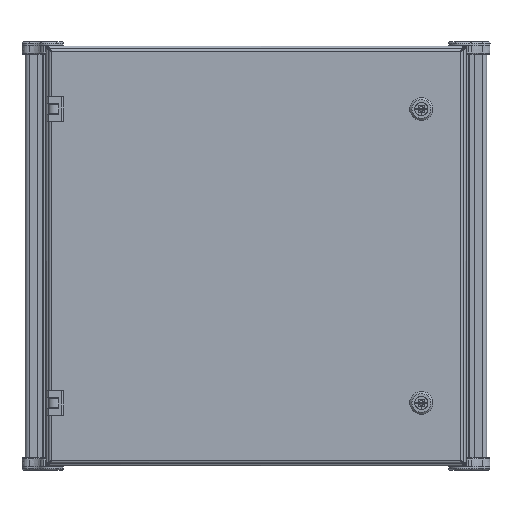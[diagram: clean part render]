
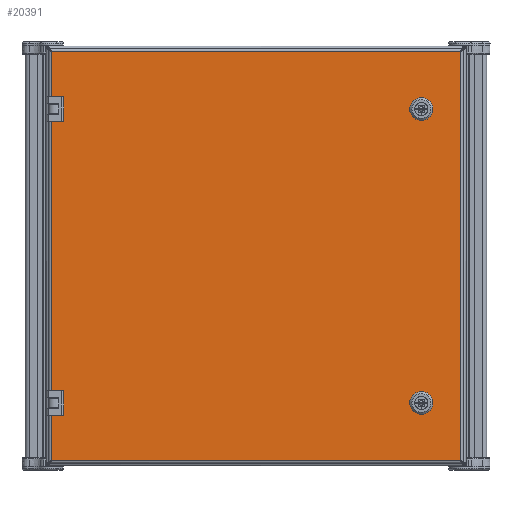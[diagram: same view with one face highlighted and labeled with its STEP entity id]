
A CAD part, front view. The second image highlights one B-rep face of the part: STEP entity #20391.
In plain terms, the highlighted planar face has unit normal (0, -1, 0).
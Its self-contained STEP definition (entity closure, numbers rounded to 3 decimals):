
#6241=ORIENTED_EDGE('',*,*,#10039,.F.);
#6242=ORIENTED_EDGE('',*,*,#10036,.F.);
#6243=ORIENTED_EDGE('',*,*,#10057,.F.);
#6244=ORIENTED_EDGE('',*,*,#10054,.F.);
#6245=ORIENTED_EDGE('',*,*,#10051,.F.);
#6246=ORIENTED_EDGE('',*,*,#10048,.F.);
#6247=ORIENTED_EDGE('',*,*,#10045,.F.);
#6248=ORIENTED_EDGE('',*,*,#10042,.F.);
#6249=ORIENTED_EDGE('',*,*,#10087,.F.);
#6250=ORIENTED_EDGE('',*,*,#10088,.F.);
#6251=ORIENTED_EDGE('',*,*,#10089,.F.);
#6252=ORIENTED_EDGE('',*,*,#10090,.F.);
#6253=ORIENTED_EDGE('',*,*,#10091,.F.);
#6254=ORIENTED_EDGE('',*,*,#10092,.F.);
#6255=ORIENTED_EDGE('',*,*,#10093,.F.);
#6256=ORIENTED_EDGE('',*,*,#10094,.F.);
#6257=ORIENTED_EDGE('',*,*,#10095,.T.);
#6258=ORIENTED_EDGE('',*,*,#10067,.T.);
#6259=ORIENTED_EDGE('',*,*,#10059,.T.);
#6260=ORIENTED_EDGE('',*,*,#10069,.T.);
#6261=ORIENTED_EDGE('',*,*,#10020,.T.);
#6262=ORIENTED_EDGE('',*,*,#10096,.T.);
#6263=ORIENTED_EDGE('',*,*,#10097,.T.);
#6264=ORIENTED_EDGE('',*,*,#10098,.T.);
#6265=ORIENTED_EDGE('',*,*,#10099,.T.);
#6266=ORIENTED_EDGE('',*,*,#10100,.T.);
#6267=ORIENTED_EDGE('',*,*,#10101,.F.);
#6268=ORIENTED_EDGE('',*,*,#10102,.T.);
#10020=EDGE_CURVE('',#12239,#12238,#13893,.T.);
#10036=EDGE_CURVE('',#12250,#12251,#13906,.T.);
#10039=EDGE_CURVE('',#12251,#12253,#13909,.T.);
#10042=EDGE_CURVE('',#12253,#12255,#13912,.T.);
#10045=EDGE_CURVE('',#12255,#12257,#13915,.T.);
#10048=EDGE_CURVE('',#12257,#12259,#13918,.T.);
#10051=EDGE_CURVE('',#12259,#12261,#13921,.T.);
#10054=EDGE_CURVE('',#12261,#12263,#13924,.T.);
#10057=EDGE_CURVE('',#12263,#12250,#13927,.T.);
#10059=EDGE_CURVE('',#12266,#12265,#13929,.T.);
#10067=EDGE_CURVE('',#12273,#12266,#13936,.T.);
#10069=EDGE_CURVE('',#12265,#12239,#13937,.T.);
#10087=EDGE_CURVE('',#12289,#12290,#13955,.T.);
#10088=EDGE_CURVE('',#12291,#12289,#13956,.T.);
#10089=EDGE_CURVE('',#12292,#12291,#13957,.T.);
#10090=EDGE_CURVE('',#12293,#12292,#13958,.T.);
#10091=EDGE_CURVE('',#12294,#12293,#13959,.T.);
#10092=EDGE_CURVE('',#12295,#12294,#13960,.T.);
#10093=EDGE_CURVE('',#12296,#12295,#13961,.T.);
#10094=EDGE_CURVE('',#12290,#12296,#13962,.T.);
#10095=EDGE_CURVE('',#12297,#12273,#13963,.T.);
#10096=EDGE_CURVE('',#12238,#12298,#13964,.T.);
#10097=EDGE_CURVE('',#12298,#12299,#13965,.T.);
#10098=EDGE_CURVE('',#12299,#12300,#13966,.T.);
#10099=EDGE_CURVE('',#12300,#12301,#13967,.T.);
#10100=EDGE_CURVE('',#12301,#12302,#13968,.T.);
#10101=EDGE_CURVE('',#12303,#12302,#13969,.T.);
#10102=EDGE_CURVE('',#12303,#12297,#13970,.T.);
#12238=VERTEX_POINT('',#35476);
#12239=VERTEX_POINT('',#35478);
#12250=VERTEX_POINT('',#35509);
#12251=VERTEX_POINT('',#35511);
#12253=VERTEX_POINT('',#35517);
#12255=VERTEX_POINT('',#35523);
#12257=VERTEX_POINT('',#35529);
#12259=VERTEX_POINT('',#35535);
#12261=VERTEX_POINT('',#35541);
#12263=VERTEX_POINT('',#35547);
#12265=VERTEX_POINT('',#35555);
#12266=VERTEX_POINT('',#35557);
#12273=VERTEX_POINT('',#35573);
#12289=VERTEX_POINT('',#35612);
#12290=VERTEX_POINT('',#35613);
#12291=VERTEX_POINT('',#35615);
#12292=VERTEX_POINT('',#35617);
#12293=VERTEX_POINT('',#35619);
#12294=VERTEX_POINT('',#35621);
#12295=VERTEX_POINT('',#35623);
#12296=VERTEX_POINT('',#35625);
#12297=VERTEX_POINT('',#35628);
#12298=VERTEX_POINT('',#35630);
#12299=VERTEX_POINT('',#35632);
#12300=VERTEX_POINT('',#35634);
#12301=VERTEX_POINT('',#35636);
#12302=VERTEX_POINT('',#35638);
#12303=VERTEX_POINT('',#35640);
#13893=LINE('',#35477,#15537);
#13906=LINE('',#35510,#15550);
#13909=LINE('',#35516,#15553);
#13912=LINE('',#35522,#15556);
#13915=LINE('',#35528,#15559);
#13918=LINE('',#35534,#15562);
#13921=LINE('',#35540,#15565);
#13924=LINE('',#35546,#15568);
#13927=LINE('',#35551,#15571);
#13929=LINE('',#35556,#15573);
#13936=LINE('',#35572,#15580);
#13937=LINE('',#35576,#15581);
#13955=LINE('',#35611,#15599);
#13956=LINE('',#35614,#15600);
#13957=LINE('',#35616,#15601);
#13958=LINE('',#35618,#15602);
#13959=LINE('',#35620,#15603);
#13960=LINE('',#35622,#15604);
#13961=LINE('',#35624,#15605);
#13962=LINE('',#35626,#15606);
#13963=LINE('',#35627,#15607);
#13964=LINE('',#35629,#15608);
#13965=LINE('',#35631,#15609);
#13966=LINE('',#35633,#15610);
#13967=LINE('',#35635,#15611);
#13968=LINE('',#35637,#15612);
#13969=LINE('',#35639,#15613);
#13970=LINE('',#35641,#15614);
#15537=VECTOR('',#27165,1000.);
#15550=VECTOR('',#27194,1000.);
#15553=VECTOR('',#27199,1000.);
#15556=VECTOR('',#27204,1000.);
#15559=VECTOR('',#27209,1000.);
#15562=VECTOR('',#27214,1000.);
#15565=VECTOR('',#27219,1000.);
#15568=VECTOR('',#27224,1000.);
#15571=VECTOR('',#27229,1000.);
#15573=VECTOR('',#27233,1000.);
#15580=VECTOR('',#27244,1000.);
#15581=VECTOR('',#27249,1000.);
#15599=VECTOR('',#27271,1000.);
#15600=VECTOR('',#27272,1000.);
#15601=VECTOR('',#27273,1000.);
#15602=VECTOR('',#27274,1000.);
#15603=VECTOR('',#27275,1000.);
#15604=VECTOR('',#27276,1000.);
#15605=VECTOR('',#27277,1000.);
#15606=VECTOR('',#27278,1000.);
#15607=VECTOR('',#27279,1000.);
#15608=VECTOR('',#27280,1000.);
#15609=VECTOR('',#27281,1000.);
#15610=VECTOR('',#27282,1000.);
#15611=VECTOR('',#27283,1000.);
#15612=VECTOR('',#27284,1000.);
#15613=VECTOR('',#27285,1000.);
#15614=VECTOR('',#27286,1000.);
#17190=EDGE_LOOP('',(#6241,#6242,#6243,#6244,#6245,#6246,#6247,#6248));
#17191=EDGE_LOOP('',(#6249,#6250,#6251,#6252,#6253,#6254,#6255,#6256));
#17192=EDGE_LOOP('',(#6257,#6258,#6259,#6260,#6261,#6262,#6263,#6264,#6265,
#6266,#6267,#6268));
#18628=FACE_BOUND('',#17190,.T.);
#18629=FACE_BOUND('',#17191,.T.);
#18630=FACE_BOUND('',#17192,.T.);
#19405=PLANE('',#22872);
#20391=ADVANCED_FACE('',(#18628,#18629,#18630),#19405,.F.);
#22872=AXIS2_PLACEMENT_3D('',#35610,#27269,#27270);
#27165=DIRECTION('',(0.,0.,-1.));
#27194=DIRECTION('',(-1.,0.,0.));
#27199=DIRECTION('',(-0.707,0.,-0.707));
#27204=DIRECTION('',(0.,0.,-1.));
#27209=DIRECTION('',(0.707,0.,-0.707));
#27214=DIRECTION('',(1.,0.,0.));
#27219=DIRECTION('',(0.707,0.,0.707));
#27224=DIRECTION('',(0.,0.,1.));
#27229=DIRECTION('',(-0.707,0.,0.707));
#27233=DIRECTION('',(0.,0.,-1.));
#27244=DIRECTION('',(1.,0.,0.));
#27249=DIRECTION('',(-1.,0.,0.));
#27269=DIRECTION('',(0.,1.,0.));
#27270=DIRECTION('',(0.,0.,1.));
#27271=DIRECTION('',(-0.707,0.,-0.707));
#27272=DIRECTION('',(-1.,0.,0.));
#27273=DIRECTION('',(-0.707,0.,0.707));
#27274=DIRECTION('',(0.,0.,1.));
#27275=DIRECTION('',(0.707,0.,0.707));
#27276=DIRECTION('',(1.,0.,0.));
#27277=DIRECTION('',(0.707,0.,-0.707));
#27278=DIRECTION('',(0.,0.,-1.));
#27279=DIRECTION('',(0.,0.,-1.));
#27280=DIRECTION('',(1.,0.,0.));
#27281=DIRECTION('',(0.,0.,-1.));
#27282=DIRECTION('',(-1.,0.,0.));
#27283=DIRECTION('',(0.,0.,-1.));
#27284=DIRECTION('',(1.,0.,0.));
#27285=DIRECTION('',(0.,0.,-1.));
#27286=DIRECTION('',(-1.,0.,0.));
#35476=CARTESIAN_POINT('',(-247.739,0.,-167.767));
#35477=CARTESIAN_POINT('',(-247.739,0.,-250.825));
#35478=CARTESIAN_POINT('',(-247.739,0.,167.767));
#35509=CARTESIAN_POINT('',(205.892,0.,187.846));
#35510=CARTESIAN_POINT('',(205.892,0.,187.846));
#35511=CARTESIAN_POINT('',(194.158,0.,187.846));
#35516=CARTESIAN_POINT('',(194.158,0.,187.846));
#35517=CARTESIAN_POINT('',(189.979,0.,183.667));
#35522=CARTESIAN_POINT('',(189.979,0.,183.667));
#35523=CARTESIAN_POINT('',(189.979,0.,171.933));
#35528=CARTESIAN_POINT('',(189.979,0.,171.933));
#35529=CARTESIAN_POINT('',(194.158,0.,167.754));
#35534=CARTESIAN_POINT('',(194.158,0.,167.754));
#35535=CARTESIAN_POINT('',(205.892,0.,167.754));
#35540=CARTESIAN_POINT('',(210.071,0.,171.933));
#35541=CARTESIAN_POINT('',(210.071,0.,171.933));
#35546=CARTESIAN_POINT('',(210.071,0.,171.933));
#35547=CARTESIAN_POINT('',(210.071,0.,183.667));
#35551=CARTESIAN_POINT('',(205.892,0.,187.846));
#35555=CARTESIAN_POINT('',(-236.55,0.,167.767));
#35556=CARTESIAN_POINT('',(-236.55,0.,187.833));
#35557=CARTESIAN_POINT('',(-236.55,0.,187.833));
#35572=CARTESIAN_POINT('',(-250.825,0.,187.833));
#35573=CARTESIAN_POINT('',(-247.739,0.,187.833));
#35576=CARTESIAN_POINT('',(-236.55,0.,167.767));
#35610=CARTESIAN_POINT('',(0.,0.,0.));
#35611=CARTESIAN_POINT('',(194.158,0.,-167.754));
#35612=CARTESIAN_POINT('',(194.158,0.,-167.754));
#35613=CARTESIAN_POINT('',(189.979,0.,-171.933));
#35614=CARTESIAN_POINT('',(205.892,0.,-167.754));
#35615=CARTESIAN_POINT('',(205.892,0.,-167.754));
#35616=CARTESIAN_POINT('',(205.892,0.,-167.754));
#35617=CARTESIAN_POINT('',(210.071,0.,-171.933));
#35618=CARTESIAN_POINT('',(210.071,0.,-183.667));
#35619=CARTESIAN_POINT('',(210.071,0.,-183.667));
#35620=CARTESIAN_POINT('',(210.071,0.,-183.667));
#35621=CARTESIAN_POINT('',(205.892,0.,-187.846));
#35622=CARTESIAN_POINT('',(194.158,0.,-187.846));
#35623=CARTESIAN_POINT('',(194.158,0.,-187.846));
#35624=CARTESIAN_POINT('',(189.979,0.,-183.667));
#35625=CARTESIAN_POINT('',(189.979,0.,-183.667));
#35626=CARTESIAN_POINT('',(189.979,0.,-171.933));
#35627=CARTESIAN_POINT('',(-247.739,0.,-250.825));
#35628=CARTESIAN_POINT('',(-247.739,0.,247.739));
#35629=CARTESIAN_POINT('',(-250.825,0.,-167.767));
#35630=CARTESIAN_POINT('',(-236.55,0.,-167.767));
#35631=CARTESIAN_POINT('',(-236.55,0.,-167.767));
#35632=CARTESIAN_POINT('',(-236.55,0.,-187.833));
#35633=CARTESIAN_POINT('',(-236.55,0.,-187.833));
#35634=CARTESIAN_POINT('',(-247.739,0.,-187.833));
#35635=CARTESIAN_POINT('',(-247.739,0.,-250.825));
#35636=CARTESIAN_POINT('',(-247.739,0.,-247.739));
#35637=CARTESIAN_POINT('',(247.739,0.,-247.739));
#35638=CARTESIAN_POINT('',(247.739,0.,-247.739));
#35639=CARTESIAN_POINT('',(247.739,0.,247.739));
#35640=CARTESIAN_POINT('',(247.739,0.,247.739));
#35641=CARTESIAN_POINT('',(-250.825,0.,247.739));
